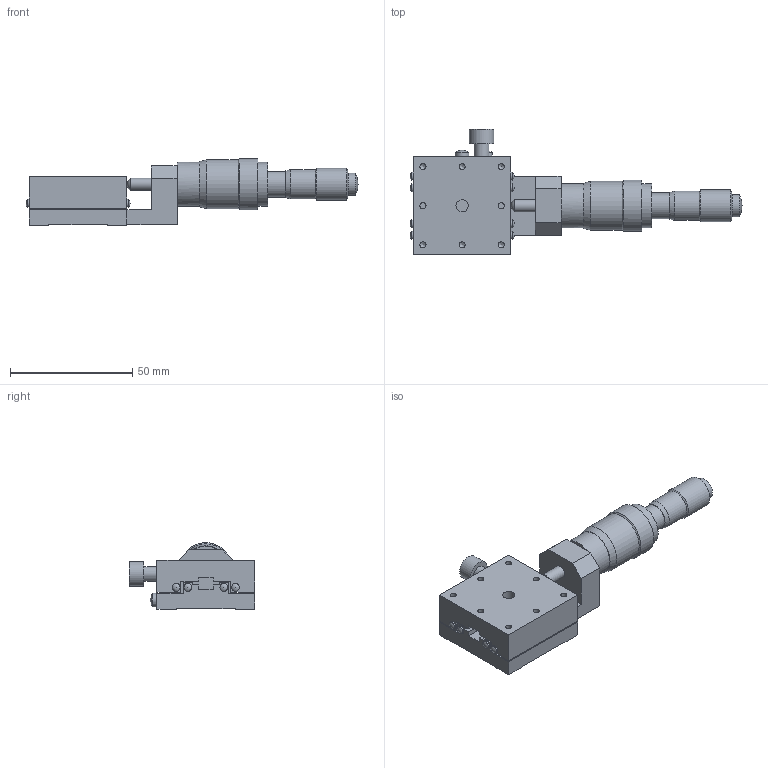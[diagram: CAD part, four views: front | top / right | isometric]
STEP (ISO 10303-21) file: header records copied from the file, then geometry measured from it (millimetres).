
FILE_DESCRIPTION( ( 'STEP AP214' ), '1' );
FILE_NAME( 'C:/Project/3D_B11-40B-配布-070508.stp', '2007-05-08T10:41:54', ( ' ' ), ( ' ' ), 'XStep 1.0', ' ', ' ' );
FILE_SCHEMA( ( 'automotive_design' ) );
Length unit declared in the file: millimetre
Products named in the file (3): 1; 2; 3
Bounding box: 135.8 x 51.3 x 27.3 mm (x, y, z)
Volume: 51531.7 mm3; surface area: 21862.8 mm2
Topology: 3 solids, 3 shells, 153 faces, 403 edges, 267 vertices
Faces by surface type: plane 75, cylinder 55, sphere 12, cone 11
Full cylindrical faces by diameter (mm): 2.5 x16, 3 x1, 3.2 x8, 3.5 x4, 5 x3, 5.6 x2, 6 x5, 9 x1, 10 x1, 10.5 x2, 12 x1, 13 x1, 18 x2, 20 x1, 21 x1
Entity records: 5224 total; most frequent: DIRECTION 696, CARTESIAN_POINT 656, ORIENTED_EDGE 558, EDGE_CURVE 279, AXIS2_PLACEMENT_3D 261, EDGE_LOOP 254, VERTEX_POINT 221, FACE_OUTER_BOUND 202
